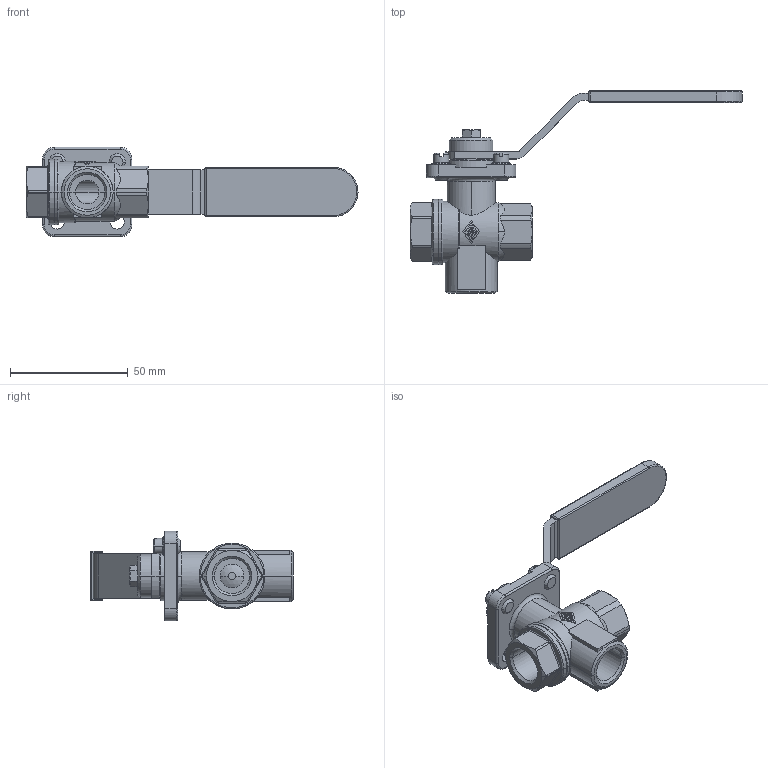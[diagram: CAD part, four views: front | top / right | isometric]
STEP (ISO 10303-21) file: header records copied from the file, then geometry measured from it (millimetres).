
FILE_DESCRIPTION(('CoCreate Modeling STEP Export'),'2;1');
FILE_NAME('3210030000.stp','2010-11-25T11:32:47',(''),(''),'CoCreate Modeling STEP processor for AP214 (Solid Model)','CoCreate Modeling 16.00D 29-May-2009 (C) Parametric Technology GmbH','');
FILE_SCHEMA(('AUTOMOTIVE_DESIGN { 1 0 10303 214 1 1 1 1 }'));
Length unit declared in the file: millimetre
Products named in the file (2): 3210030000
Assembly tree (1 placements, depth 2):
  3210030000
    3210030000
Bounding box: 141 x 86 x 38 mm (x, y, z)
Volume: 45288.9 mm3; surface area: 19766.6 mm2
Topology: 1 solids, 1 shells, 485 faces, 1292 edges, 830 vertices
Faces by surface type: plane 280, cylinder 125, cone 48, torus 26, sphere 6
Entity records: 18980 total; most frequent: CARTESIAN_POINT 6777, ORIENTED_EDGE 2572, DIRECTION 2055, EDGE_CURVE 1286, VERTEX_POINT 830, VECTOR 811, LINE 811, AXIS2_PLACEMENT_3D 622
